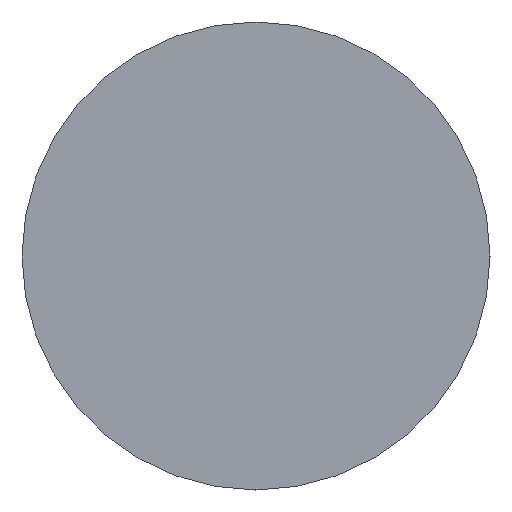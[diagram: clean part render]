
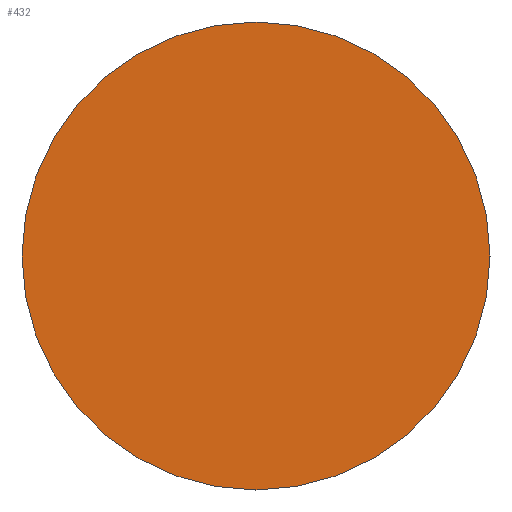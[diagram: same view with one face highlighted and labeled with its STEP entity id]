
A CAD part, left-side view. The second image highlights one B-rep face of the part: STEP entity #432.
In plain terms, the highlighted planar face has unit normal (-1, 0, 0).
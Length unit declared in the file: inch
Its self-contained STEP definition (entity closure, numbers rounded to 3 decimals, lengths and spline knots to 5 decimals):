
#11 = FACE_OUTER_BOUND ( 'NONE', #524, .T. ) ;
#134 = CARTESIAN_POINT ( 'NONE',  ( -6., 0., 0. ) ) ;
#154 = AXIS2_PLACEMENT_3D ( 'NONE', #291, #295, #191 ) ;
#176 = DIRECTION ( 'NONE',  ( 0., 0., 1. ) ) ;
#191 = DIRECTION ( 'NONE',  ( 0., 0., 1. ) ) ;
#203 = VERTEX_POINT ( 'NONE', #375 ) ;
#262 = ORIENTED_EDGE ( 'NONE', *, *, #602, .T. ) ;
#269 = EDGE_CURVE ( 'NONE', #350, #203, #541, .T. ) ;
#291 = CARTESIAN_POINT ( 'NONE',  ( -6., 0., 0. ) ) ;
#295 = DIRECTION ( 'NONE',  ( -1., 0., 0. ) ) ;
#346 = DIRECTION ( 'NONE',  ( 0., 0., -1. ) ) ;
#350 = VERTEX_POINT ( 'NONE', #384 ) ;
#352 = CIRCLE ( 'NONE', #154, 0.3125 ) ;
#354 = AXIS2_PLACEMENT_3D ( 'NONE', #134, #505, #176 ) ;
#375 = CARTESIAN_POINT ( 'NONE',  ( -6., 0., -0.3125 ) ) ;
#384 = CARTESIAN_POINT ( 'NONE',  ( -6., 0., 0.3125 ) ) ;
#427 = ORIENTED_EDGE ( 'NONE', *, *, #269, .T. ) ;
#432 = ADVANCED_FACE ( 'NONE', ( #11 ), #548, .F. ) ;
#445 = DIRECTION ( 'NONE',  ( 1., 0., 0. ) ) ;
#451 = CARTESIAN_POINT ( 'NONE',  ( -6., 0.3125, 0. ) ) ;
#505 = DIRECTION ( 'NONE',  ( -1., 0., 0. ) ) ;
#520 = AXIS2_PLACEMENT_3D ( 'NONE', #451, #445, #346 ) ;
#524 = EDGE_LOOP ( 'NONE', ( #427, #262 ) ) ;
#541 = CIRCLE ( 'NONE', #354, 0.3125 ) ;
#548 = PLANE ( 'NONE',  #520 ) ;
#602 = EDGE_CURVE ( 'NONE', #203, #350, #352, .T. ) ;
